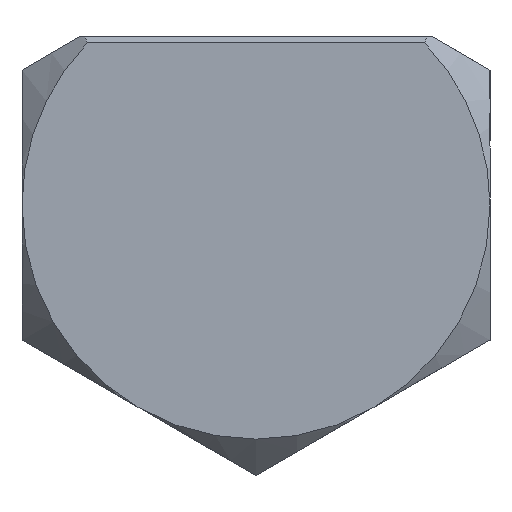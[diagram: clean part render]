
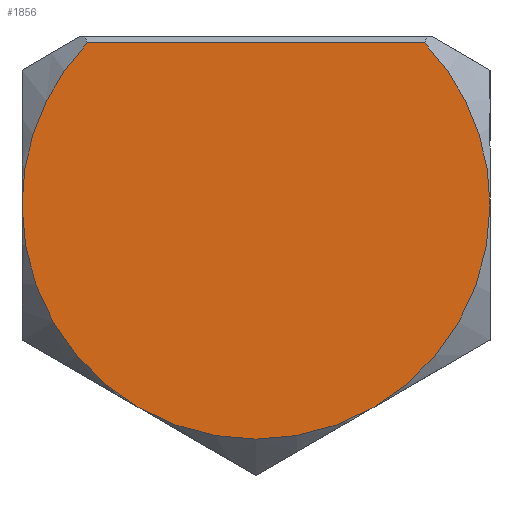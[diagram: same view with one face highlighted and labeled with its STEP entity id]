
A CAD part, front view. The second image highlights one B-rep face of the part: STEP entity #1856.
In plain terms, the highlighted planar face has unit normal (0, -1, 0).
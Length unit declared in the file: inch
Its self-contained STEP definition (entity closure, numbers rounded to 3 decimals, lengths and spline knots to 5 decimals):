
#113=PLANE('',#2080);
#202=CIRCLE('',#2042,0.75);
#218=CIRCLE('',#2072,0.75);
#219=CIRCLE('',#2074,0.75);
#220=CIRCLE('',#2076,0.75);
#221=CIRCLE('',#2079,0.75);
#348=FACE_OUTER_BOUND('',#463,.T.);
#463=EDGE_LOOP('',(#1613,#1614,#1615,#1616,#1617,#1618));
#608=LINE('',#4480,#679);
#679=VECTOR('',#2446,0.3937);
#821=VERTEX_POINT('',#4477);
#822=VERTEX_POINT('',#4479);
#824=VERTEX_POINT('',#4485);
#832=VERTEX_POINT('',#4513);
#840=VERTEX_POINT('',#4542);
#845=VERTEX_POINT('',#4559);
#1069=EDGE_CURVE('',#821,#822,#608,.T.);
#1073=EDGE_CURVE('',#824,#821,#202,.T.);
#1109=EDGE_CURVE('',#822,#845,#218,.T.);
#1110=EDGE_CURVE('',#845,#840,#219,.T.);
#1111=EDGE_CURVE('',#840,#832,#220,.T.);
#1112=EDGE_CURVE('',#832,#824,#221,.T.);
#1613=ORIENTED_EDGE('',*,*,#1069,.F.);
#1614=ORIENTED_EDGE('',*,*,#1073,.F.);
#1615=ORIENTED_EDGE('',*,*,#1112,.F.);
#1616=ORIENTED_EDGE('',*,*,#1111,.F.);
#1617=ORIENTED_EDGE('',*,*,#1110,.F.);
#1618=ORIENTED_EDGE('',*,*,#1109,.F.);
#1856=ADVANCED_FACE('',(#348),#113,.T.);
#2042=AXIS2_PLACEMENT_3D('',#4489,#2453,#2454);
#2072=AXIS2_PLACEMENT_3D('',#4583,#2522,#2523);
#2074=AXIS2_PLACEMENT_3D('',#4585,#2526,#2527);
#2076=AXIS2_PLACEMENT_3D('',#4587,#2530,#2531);
#2079=AXIS2_PLACEMENT_3D('',#4590,#2536,#2537);
#2080=AXIS2_PLACEMENT_3D('',#4591,#2538,#2539);
#2446=DIRECTION('',(1.,0.,0.));
#2453=DIRECTION('center_axis',(0.,1.,0.));
#2454=DIRECTION('ref_axis',(0.,0.,1.));
#2522=DIRECTION('center_axis',(0.,1.,0.));
#2523=DIRECTION('ref_axis',(0.,0.,1.));
#2526=DIRECTION('center_axis',(0.,1.,0.));
#2527=DIRECTION('ref_axis',(0.,0.,1.));
#2530=DIRECTION('center_axis',(0.,1.,0.));
#2531=DIRECTION('ref_axis',(0.,0.,1.));
#2536=DIRECTION('center_axis',(0.,1.,0.));
#2537=DIRECTION('ref_axis',(0.,0.,1.));
#2538=DIRECTION('center_axis',(0.,-1.,0.));
#2539=DIRECTION('ref_axis',(0.,0.,-1.));
#4477=CARTESIAN_POINT('',(-0.54046,0.,0.52));
#4479=CARTESIAN_POINT('',(0.54046,0.,0.52));
#4480=CARTESIAN_POINT('',(0.28235,0.,0.52));
#4485=CARTESIAN_POINT('',(-0.75,0.,0.));
#4489=CARTESIAN_POINT('Origin',(0.,0.,0.));
#4513=CARTESIAN_POINT('',(-0.375,0.,-0.64952));
#4542=CARTESIAN_POINT('',(0.375,0.,-0.64952));
#4559=CARTESIAN_POINT('',(0.75,0.,0.));
#4583=CARTESIAN_POINT('Origin',(0.,0.,0.));
#4585=CARTESIAN_POINT('Origin',(0.,0.,0.));
#4587=CARTESIAN_POINT('Origin',(0.,0.,0.));
#4590=CARTESIAN_POINT('Origin',(0.,0.,0.));
#4591=CARTESIAN_POINT('Origin',(0.,0.,0.));
